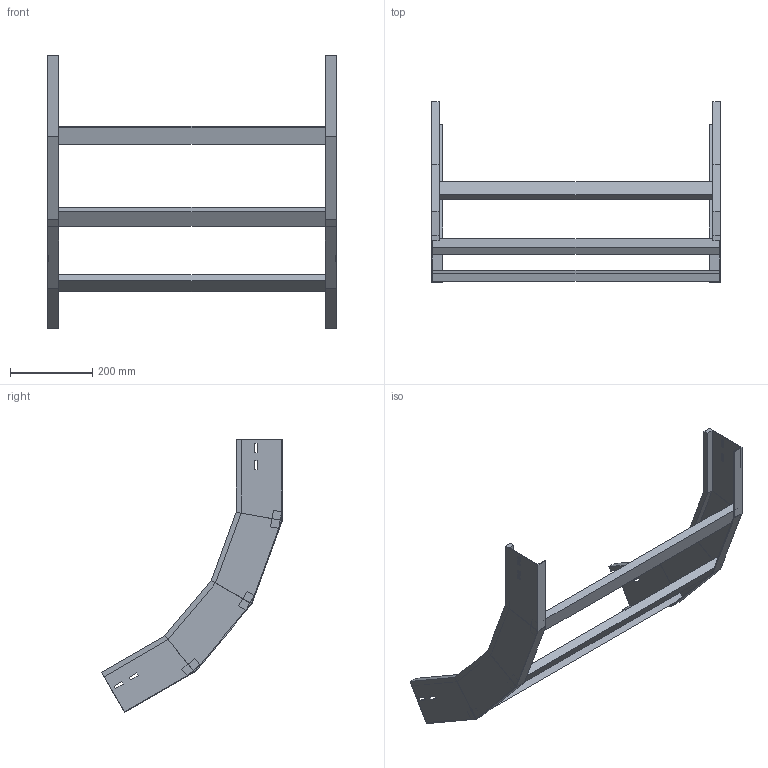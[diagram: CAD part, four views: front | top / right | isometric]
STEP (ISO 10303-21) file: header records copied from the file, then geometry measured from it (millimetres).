
FILE_DESCRIPTION (( 'STEP AP214' ), '1' );
FILE_NAME ('B2X40B5J700XX.step', '2025-03-20T10:16:19', ( '' ), ( '' ), 'SwSTEP 2.0', 'SolidWorks 2023', '' );
FILE_SCHEMA (( 'AUTOMOTIVE_DESIGN' ));
Length unit declared in the file: millimetre
Products named in the file (3): TRAVERSINO_700; B2X40B5J700XX; LONGH.SALITA_60°_H112.5_R500
Assembly tree (5 placements, depth 2):
  B2X40B5J700XX
    LONGH.SALITA_60°_H112.5_R500  x2
    TRAVERSINO_700  x3
Bounding box: 700 x 438.74 x 662.49 mm (x, y, z)
Volume: 2388466.9 mm3; surface area: 735919.8 mm2
Topology: 5 solids, 5 shells, 118 faces, 276 edges, 168 vertices
Faces by surface type: plane 118
Entity records: 1672 total; most frequent: CARTESIAN_POINT 276, ORIENTED_EDGE 264, DIRECTION 260, LINE 132, VECTOR 132, EDGE_CURVE 132, VERTEX_POINT 80, AXIS2_PLACEMENT_3D 64
